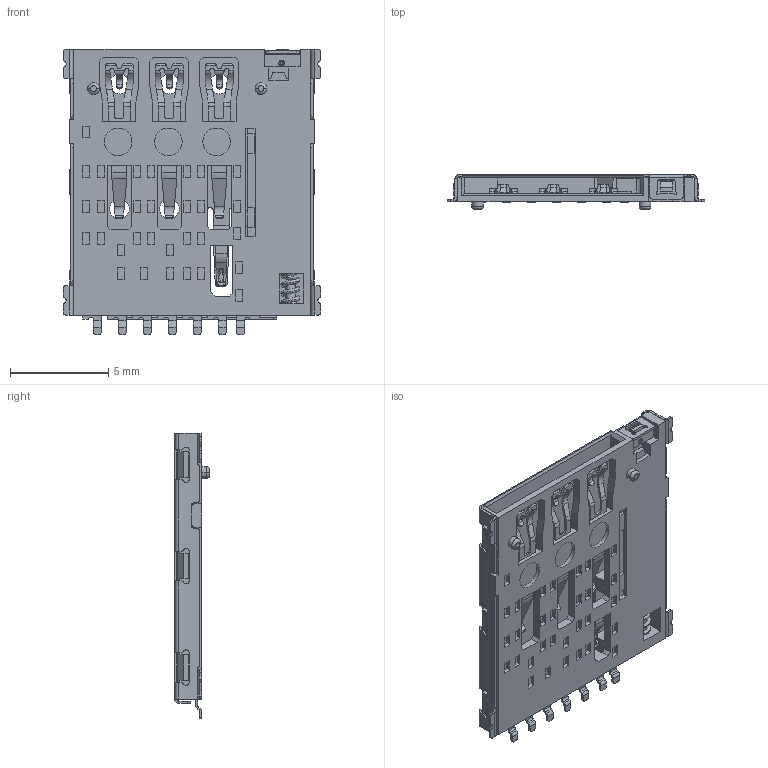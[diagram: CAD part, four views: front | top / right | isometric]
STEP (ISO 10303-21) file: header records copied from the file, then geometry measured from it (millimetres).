
FILE_DESCRIPTION((''),'2;1');
FILE_NAME('NAON_SIM_CARD_1_37H-10_ASM_ASM','2021-09-02T',('Administrator'),(''),'PRO/ENGINEER BY PARAMETRIC TECHNOLOGY CORPORATION, 2011310','PRO/ENGINEER BY PARAMETRIC TECHNOLOGY CORPORATION, 2011310','');
FILE_SCHEMA(('CONFIG_CONTROL_DESIGN'));
Products named in the file (1): NAON_SIM_CARD_1_37H-10_ASM_ASM
Bounding box: 13.09 x 1.77 x 14.5 mm (x, y, z)
Volume: 93.2 mm3; surface area: 1005.4 mm2
Topology: 1 solids, 2 shells, 1465 faces, 4068 edges, 2663 vertices
Faces by surface type: plane 1005, cylinder 373, bspline 42, torus 38, cone 7
Entity records: 54486 total; most frequent: CARTESIAN_POINT 16920, ORIENTED_EDGE 8136, DIRECTION 7325, EDGE_CURVE 4068, VECTOR 2991, LINE 2991, VERTEX_POINT 2663, AXIS2_PLACEMENT_3D 2167
